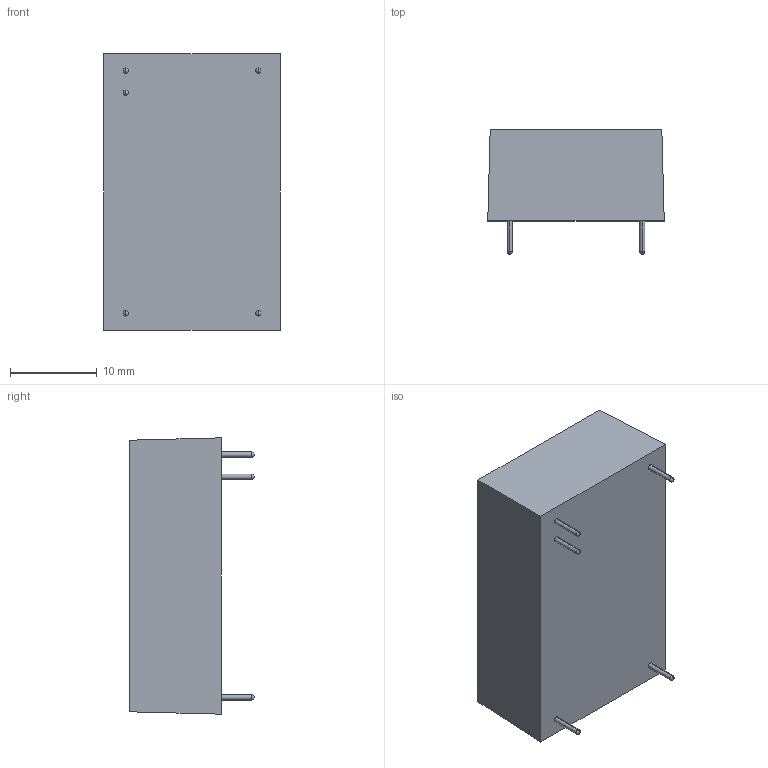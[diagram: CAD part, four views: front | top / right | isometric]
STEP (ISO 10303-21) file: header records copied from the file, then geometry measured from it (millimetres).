
FILE_DESCRIPTION (( 'STEP AP214' ), '1' );
FILE_NAME ('TIM 6-Single.STEP', '2024-05-02T10:17:46', ( '' ), ( '' ), 'SwSTEP 2.0', 'SolidWorks 2017', '' );
FILE_SCHEMA (( 'AUTOMOTIVE_DESIGN' ));
Length unit declared in the file: millimetre
Products named in the file (1): TIM 6-Single
Bounding box: 20.3 x 14.3 x 31.8 mm (x, y, z)
Volume: 6634 mm3; surface area: 2380.1 mm2
Topology: 1 solids, 1 shells, 26 faces, 72 edges, 43 vertices
Faces by surface type: sphere 10, cylinder 10, plane 6
Entity records: 896 total; most frequent: DIRECTION 136, CARTESIAN_POINT 112, ORIENTED_EDGE 104, AXIS2_PLACEMENT_3D 57, EDGE_CURVE 52, VERTEX_POINT 33, EDGE_LOOP 31, CIRCLE 30
